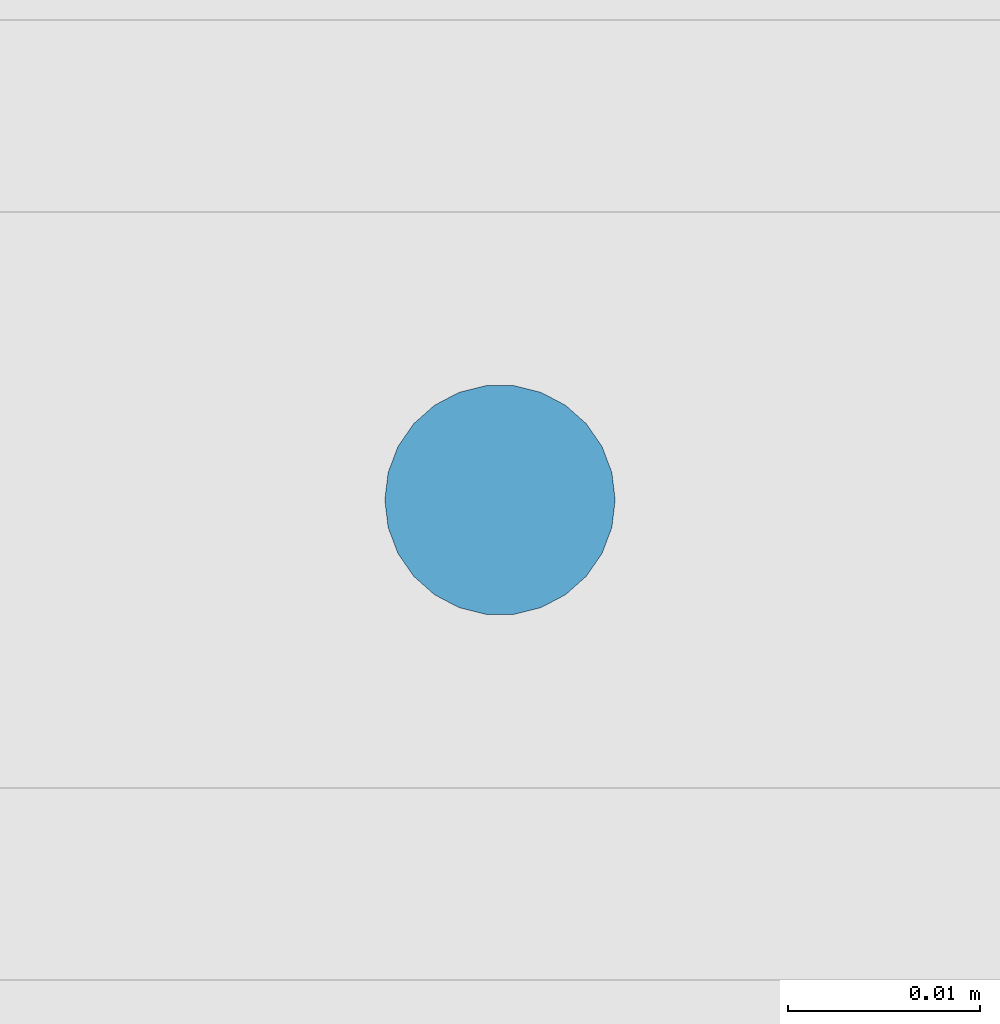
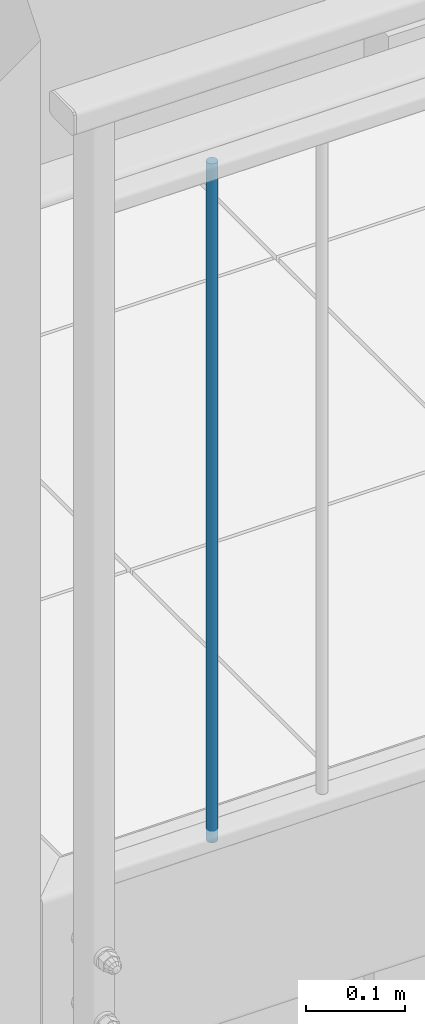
# One storey, part 15 of 162: 1 column.
"""IFC2X3 building model written with IfcOpenShell, lengths in millimetres."""

from ifc_helpers import new_model, entity, si_unit, converted_unit, frame, origin, origin_with_axes, origin_2d, place, context, project, spatial, circle, extrude, material, element, save


model = new_model("IFC2X3")

# Units and contexts
model_context = context("Model", 3, precision=1e-09, world=origin_with_axes())
ifc_project = project(units=[si_unit("LENGTHUNIT", "METRE", prefix="MILLI"), si_unit("AREAUNIT", "SQUARE_METRE"), si_unit("VOLUMEUNIT", "CUBIC_METRE"), converted_unit("PLANEANGLEUNIT", "DEGREE", entity("IfcPlaneAngleMeasure", 0.01745329), si_unit("PLANEANGLEUNIT", "RADIAN"), dimensions=[0, 0, 0, 0, 0, 0, 0])], contexts=[model_context])

# Site, building, storey
site_placement = place(None, origin_with_axes())
site = spatial("IfcSite", under=ifc_project, at=site_placement, Name="Hermannstra?e 1a, 60318 Frankfurt", CompositionType="ELEMENT")
building_placement = place(site_placement, origin_with_axes())
building = spatial("IfcBuilding", under=site, at=building_placement, Name="Struktur 1", CompositionType="ELEMENT")
storey_placement = place(building_placement, origin_with_axes())
storey = spatial("IfcBuildingStorey", under=building, at=storey_placement, Name="Default Storey", CompositionType="ELEMENT", Elevation=0.0)

# Column
ifc_material = material(Name="S235JR")
column_placement = place(None, frame((2741.166507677, 1515.609373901, 7805.0), z_axis=(0.0, 0.0, -1.0), x_axis=(1.0, 0.0, 0.0)))
element("IfcColumn", 1, at=column_placement, inside=storey, material=ifc_material, Name="-", ObjectType="-", context=model_context, shape_type="SweptSolid", body=[
    extrude(circle(Radius=6.0, at=origin_2d()), origin(), (0.0, 0.0, -1.0), 840.0),
])

save(model, "model.ifc")
